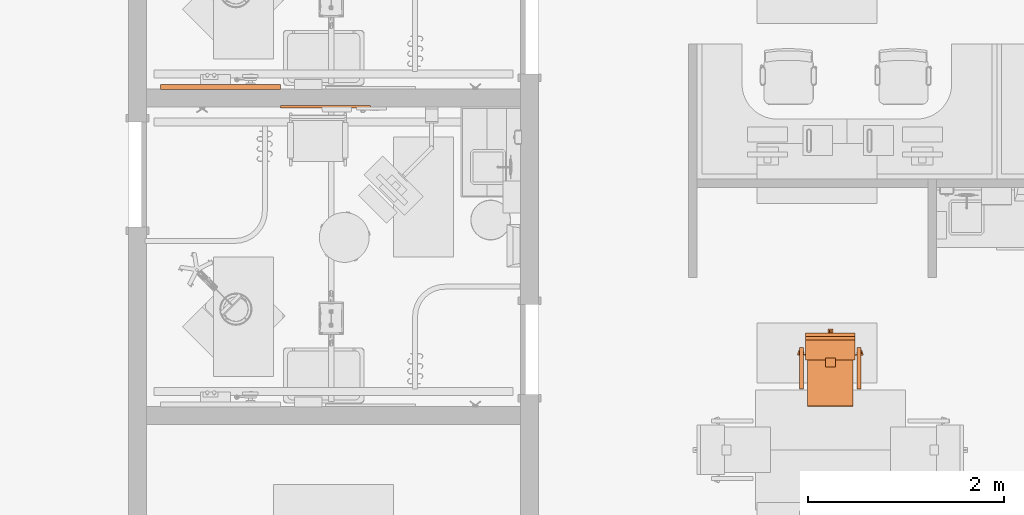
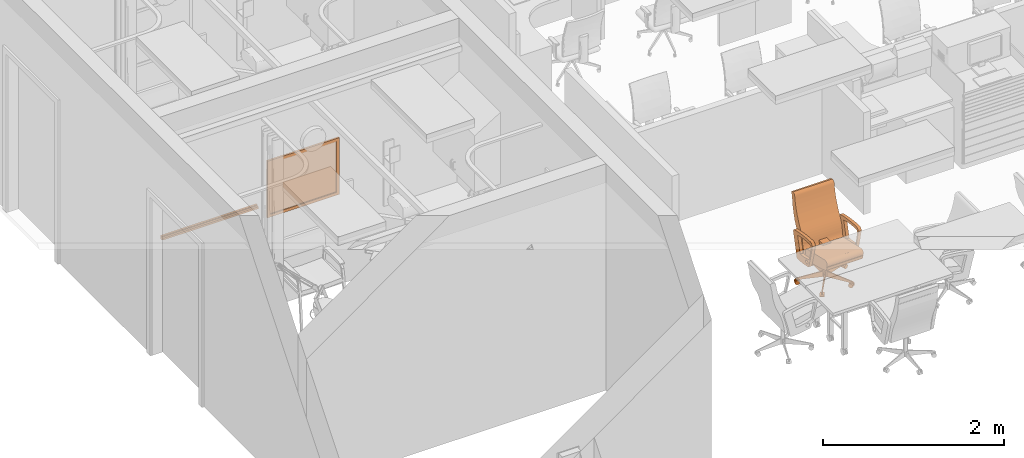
# One storey, part 51 of 142: 3 proxies.
"""IFC2X3 building model written with IfcOpenShell, lengths in feet."""

import ifcopenshell
import ifcopenshell.guid

model = None  # the IFC model being written
_history = None  # IfcOwnerHistory: only IFC2X3 demands one
_inside = {}  # id of a spatial element -> (the spatial element, [elements in it])
_under = {}  # id of a project, library or spatial element -> (it, [spatial elements below it])
_declared = {}  # id of a project -> (the project, [libraries it declares])
_typed = {}  # id of a type object -> (the type object, [elements of that type])
_made_of = {}  # id of a material, layer set ... -> (it, [elements and type objects made of it])


def new_model(schema):
    """Start an empty IFC model of exactly this schema.

    Asked for "IFC4X3", IfcOpenShell would pick the latest addendum, in which some entities
    have other attributes; the version numbers below select the first issue.
    IFC2X3 requires an IfcOwnerHistory on every rooted entity: one is made here for all.
    """
    global model, _history
    if schema == "IFC4X3":
        model = ifcopenshell.file(schema_version=(4, 3, 0, 0))
    else:
        model = ifcopenshell.file(schema=schema)
    _inside.clear()
    _under.clear()
    _declared.clear()
    _typed.clear()
    _made_of.clear()
    _history = None
    if model.schema == "IFC2X3":
        org = make("IfcOrganization", Name="unknown")
        user = make(
            "IfcPersonAndOrganization",
            ThePerson=make("IfcPerson", FamilyName="unknown"),
            TheOrganization=org,
        )
        app = make(
            "IfcApplication",
            ApplicationDeveloper=org,
            Version="unknown",
            ApplicationFullName="unknown",
            ApplicationIdentifier="unknown",
        )
        _history = make(
            "IfcOwnerHistory",
            OwningUser=user,
            OwningApplication=app,
            ChangeAction="ADDED",
            CreationDate=0,
        )
    return model


def make(cls, **values):
    """One entity of the class cls with the attributes given. An attribute that is None is left unset."""
    return model.create_entity(
        cls, **{name: value for name, value in values.items() if value is not None}
    )


def entity(cls, *values):
    """Any entity or typed value of the class cls, its attributes in the order of the schema. None: left unset."""
    e = model.create_entity(cls)
    for i, value in enumerate(values):
        if value is not None:
            e[i] = value
    return e


def rooted(cls, **values):
    """An entity with a GlobalId (a new one), such as an element, a storey or a relation."""
    return make(cls, GlobalId=ifcopenshell.guid.new(), OwnerHistory=_history, **values)


def si_unit(unit_type, name, prefix=None):
    """IfcSIUnit, for example si_unit("LENGTHUNIT", "METRE", prefix="MILLI")."""
    return make("IfcSIUnit", UnitType=unit_type, Prefix=prefix, Name=name)


def converted_unit(unit_type, name, factor, base, dimensions=None, offset=None):
    """IfcConversionBasedUnit, such as the inch: factor (a typed value) times the base unit."""
    return make(
        "IfcConversionBasedUnit"
        if offset is None
        else "IfcConversionBasedUnitWithOffset",
        ConversionOffset=offset,
        Dimensions=None
        if dimensions is None
        else entity("IfcDimensionalExponents", *dimensions),
        UnitType=unit_type,
        Name=name,
        ConversionFactor=make(
            "IfcMeasureWithUnit", ValueComponent=factor, UnitComponent=base
        ),
    )


def derived_unit(unit_type, elements):
    """IfcDerivedUnit: a product of units, each with its exponent."""
    return make(
        "IfcDerivedUnit",
        Elements=[
            make("IfcDerivedUnitElement", Unit=unit, Exponent=power)
            for unit, power in elements
        ],
        UnitType=unit_type,
    )


def assignment(units):
    """IfcUnitAssignment: the units of a project."""
    return None if units is None else make("IfcUnitAssignment", Units=units)


def point(xyz):
    """IfcCartesianPoint."""
    return None if xyz is None else make("IfcCartesianPoint", Coordinates=xyz)


def direction(xyz):
    """IfcDirection."""
    return None if xyz is None else make("IfcDirection", DirectionRatios=xyz)


def frame(location, z_axis=None, x_axis=None):
    """IfcAxis2Placement3D, a coordinate frame: its origin and axes. An axis left out is left unset."""
    return make(
        "IfcAxis2Placement3D",
        Location=point(location),
        Axis=direction(z_axis),
        RefDirection=direction(x_axis),
    )


def frame_2d(location, x_axis=None):
    """IfcAxis2Placement2D, a coordinate frame in the plane: its origin and x axis."""
    return make(
        "IfcAxis2Placement2D", Location=point(location), RefDirection=direction(x_axis)
    )


def origin():
    """The frame at (0, 0, 0) with its axes left unset."""
    return frame((0.0, 0.0, 0.0))


def origin_2d_with_axis():
    """The frame at (0, 0) in the plane with the x axis (1, 0) written out."""
    return frame_2d((0.0, 0.0), x_axis=(1.0, 0.0))


def place(relative_to, where):
    """IfcLocalPlacement: puts the frame where relative to a parent placement (None: the world)."""
    return make(
        "IfcLocalPlacement", PlacementRelTo=relative_to, RelativePlacement=where
    )


def context(
    kind, dimensions, precision=None, world=None, true_north=None, identifier=None
):
    """IfcGeometricRepresentationContext, for example the 3D "Model" context."""
    return make(
        "IfcGeometricRepresentationContext",
        ContextIdentifier=identifier,
        ContextType=kind,
        CoordinateSpaceDimension=dimensions,
        Precision=precision,
        WorldCoordinateSystem=world,
        TrueNorth=true_north,
    )


def subcontext(parent, identifier, kind, view, scale=None):
    """IfcGeometricRepresentationSubContext, for example "Body" below "Model"."""
    return make(
        "IfcGeometricRepresentationSubContext",
        ContextIdentifier=identifier,
        ContextType=kind,
        ParentContext=parent,
        TargetScale=scale,
        TargetView=view,
    )


def project(units=None, contexts=None):
    """IfcProject with its units and contexts."""
    return rooted(
        "IfcProject",
        Name="project",
        RepresentationContexts=contexts,
        UnitsInContext=assignment(units),
    )


def spatial(cls, under=None, at=None, **own):
    """A site, building, storey or space (cls), placed at a placement, below another one or the project."""
    s = rooted(cls, ObjectPlacement=at, **own)
    if under is not None:
        _under.setdefault(under.id(), (under, []))[1].append(s)
    return s


def polyline(points):
    """IfcPolyline through the points."""
    return make("IfcPolyline", Points=[point(p) for p in points])


def circle_curve(where, radius):
    """IfcCircle in the frame where."""
    return make("IfcCircle", Position=where, Radius=radius)


def parameter(value):
    """IfcParameterValue: where a trimmed curve begins or ends, as a parameter of its basis curve."""
    return model.create_entity("IfcParameterValue", value)


def trimmed(basis, trim1, trim2, sense, master):
    """IfcTrimmedCurve: the piece of a basis curve between two trims."""
    return make(
        "IfcTrimmedCurve",
        BasisCurve=basis,
        Trim1=trim1,
        Trim2=trim2,
        SenseAgreement=sense,
        MasterRepresentation=master,
    )


def segment(curve, same_sense, transition):
    """IfcCompositeCurveSegment."""
    return make(
        "IfcCompositeCurveSegment",
        Transition=transition,
        SameSense=same_sense,
        ParentCurve=curve,
    )


def composite_curve(segments, self_intersect=None):
    """IfcCompositeCurve: segments joined end to end."""
    return make("IfcCompositeCurve", Segments=segments, SelfIntersect=self_intersect)


def profile(cls, at=None, kind="AREA", **sizes):
    """A parametric profile (cls). Its sizes go by their IFC names, for example OverallWidth=200.0."""
    return make(cls, ProfileType=kind, Position=at, **sizes)


def rectangle(**sizes):
    """IfcRectangleProfileDef."""
    return profile("IfcRectangleProfileDef", **sizes)


def circle(**sizes):
    """IfcCircleProfileDef."""
    return profile("IfcCircleProfileDef", **sizes)


def outline(outer, holes=None, kind="AREA"):
    """IfcArbitraryClosedProfileDef: a profile drawn as a closed curve; with holes, ...WithVoids."""
    if holes is None:
        return make("IfcArbitraryClosedProfileDef", ProfileType=kind, OuterCurve=outer)
    return make(
        "IfcArbitraryProfileDefWithVoids",
        ProfileType=kind,
        OuterCurve=outer,
        InnerCurves=holes,
    )


def extrude(swept, where, along, depth):
    """IfcExtrudedAreaSolid: the profile swept, set in the frame where, extruded along a direction by depth."""
    return make(
        "IfcExtrudedAreaSolid",
        SweptArea=swept,
        Position=where,
        ExtrudedDirection=direction(along),
        Depth=depth,
    )


def shape(context_of_items, identifier, shape_type, items):
    """IfcShapeRepresentation: the items that make up one representation, for example the "Body"."""
    return make(
        "IfcShapeRepresentation",
        ContextOfItems=context_of_items,
        RepresentationIdentifier=identifier,
        RepresentationType=shape_type,
        Items=items,
    )


def source(mapping_origin, context_of_items, identifier, shape_type, items):
    """IfcRepresentationMap: a shape defined once, which mapped items show again and again."""
    return make(
        "IfcRepresentationMap",
        MappingOrigin=mapping_origin,
        MappedRepresentation=shape(context_of_items, identifier, shape_type, items),
    )


def transform(
    local_origin,
    x_axis=None,
    y_axis=None,
    z_axis=None,
    scale=None,
    scale2=None,
    scale3=None,
    uniform=True,
):
    """IfcCartesianTransformationOperator3D, or its non-uniform kind. x_axis, y_axis, z_axis: its Axis1, 2, 3."""
    if uniform:
        return make(
            "IfcCartesianTransformationOperator3D",
            Axis1=direction(x_axis),
            Axis2=direction(y_axis),
            LocalOrigin=point(local_origin),
            Scale=scale,
            Axis3=direction(z_axis),
        )
    return make(
        "IfcCartesianTransformationOperator3DnonUniform",
        Axis1=direction(x_axis),
        Axis2=direction(y_axis),
        LocalOrigin=point(local_origin),
        Scale=scale,
        Axis3=direction(z_axis),
        Scale2=scale2,
        Scale3=scale3,
    )


def mapped(mapping_source, mapping_target):
    """IfcMappedItem: shows the shape of a source again, moved by a transform."""
    return make(
        "IfcMappedItem", MappingSource=mapping_source, MappingTarget=mapping_target
    )


def made_of(thing, what):
    """Note that an element or type object is made of a material, layer set ...; save() writes the relation."""
    if what is not None:
        _made_of.setdefault(what.id(), (what, []))[1].append(thing)
    return thing


def type_object(cls, material=None, **own):
    """A type object (cls), such as IfcWallType, which elements share."""
    return made_of(rooted(cls, **own), material)


def type_shapes(of_type, sources):
    """Give a type object the sources (RepresentationMaps) that its elements show as mapped items."""
    of_type.RepresentationMaps = sources


def element(
    cls,
    number,
    at=None,
    inside=None,
    cuts=None,
    type_object=None,
    material=None,
    context=None,
    identifier="Body",
    shape_type=None,
    held_by="IfcProductDefinitionShape",
    body=None,
    shapes=None,
    **own,
):
    """One element of the class cls, such as IfcWall. Its Tag is "e" and its number.

    at: its placement. inside: the storey or other place that contains it. cuts: it is an
    opening in that element (IfcRelVoidsElement). A single representation is given by context,
    identifier, shape_type and body (its items); several are given by shapes. held_by: the class
    of the entity that holds the representations. save() writes the other relations.
    """
    e = rooted(cls, Tag="e%d" % number, ObjectPlacement=at, **own)
    if body is not None:
        shapes = [shape(context, identifier, shape_type, body)]
    if shapes is not None:
        e.Representation = make(held_by, Representations=shapes)
    if inside is not None:
        _inside.setdefault(inside.id(), (inside, []))[1].append(e)
    if cuts is not None:
        rooted(
            "IfcRelVoidsElement", RelatingBuildingElement=cuts, RelatedOpeningElement=e
        )
    if type_object is not None:
        _typed.setdefault(type_object.id(), (type_object, []))[1].append(e)
    return made_of(e, material)


def aggregate(whole, parts):
    """IfcRelAggregates: a whole, such as a stair, and the parts it consists of."""
    return rooted("IfcRelAggregates", RelatingObject=whole, RelatedObjects=parts)


def save(model, path):
    """Write the relations noted so far, then the file.

    IfcRelAggregates (storeys below a building ...), IfcRelContainedInSpatialStructure (elements
    in a storey), IfcRelDefinesByType, IfcRelAssociatesMaterial and IfcRelDeclares: one each for
    every whole, place, type object, material and project.
    """
    for whole, parts in _under.values():
        aggregate(whole, parts)
    for where, things in _inside.values():
        rooted(
            "IfcRelContainedInSpatialStructure",
            RelatedElements=things,
            RelatingStructure=where,
        )
    for kind, things in _typed.values():
        rooted("IfcRelDefinesByType", RelatedObjects=things, RelatingType=kind)
    for what, things in _made_of.values():
        rooted("IfcRelAssociatesMaterial", RelatedObjects=things, RelatingMaterial=what)
    for by, libraries in _declared.values():
        rooted("IfcRelDeclares", RelatingContext=by, RelatedDefinitions=libraries)
    model.write(path)


model = new_model("IFC2X3")

# Units and contexts
model_context = context("Model", 3, precision=0.0001, world=origin(), true_north=direction((6.12303176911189e-17, 1.0)))
body_context = subcontext(model_context, "Body", "Model", "MODEL_VIEW")
ifc_project = project(units=[converted_unit("LENGTHUNIT", "FOOT", entity("IfcRatioMeasure", 0.3048), si_unit("LENGTHUNIT", "METRE"), dimensions=[1, 0, 0, 0, 0, 0, 0]), converted_unit("AREAUNIT", "SQUARE FOOT", entity("IfcRatioMeasure", 0.09290304), si_unit("AREAUNIT", "SQUARE_METRE"), dimensions=[2, 0, 0, 0, 0, 0, 0]), converted_unit("VOLUMEUNIT", "CUBIC FOOT", entity("IfcRatioMeasure", 0.028316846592), si_unit("VOLUMEUNIT", "CUBIC_METRE"), dimensions=[3, 0, 0, 0, 0, 0, 0]), converted_unit("PLANEANGLEUNIT", "DEGREE", entity("IfcRatioMeasure", 0.0174532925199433), si_unit("PLANEANGLEUNIT", "RADIAN"), dimensions=[0, 0, 0, 0, 0, 0, 0]), si_unit("MASSUNIT", "GRAM", prefix="KILO"), derived_unit("MASSDENSITYUNIT", [(si_unit("MASSUNIT", "GRAM", prefix="KILO"), 1), (si_unit("LENGTHUNIT", "METRE"), -3)]), si_unit("TIMEUNIT", "SECOND"), si_unit("FREQUENCYUNIT", "HERTZ"), si_unit("THERMODYNAMICTEMPERATUREUNIT", "DEGREE_CELSIUS"), derived_unit("THERMALTRANSMITTANCEUNIT", [(si_unit("MASSUNIT", "GRAM", prefix="KILO"), 1), (si_unit("THERMODYNAMICTEMPERATUREUNIT", "KELVIN"), -1), (si_unit("TIMEUNIT", "SECOND"), -3)]), derived_unit("VOLUMETRICFLOWRATEUNIT", [(si_unit("LENGTHUNIT", "METRE"), 3), (si_unit("TIMEUNIT", "SECOND"), -1)]), si_unit("ELECTRICCURRENTUNIT", "AMPERE"), si_unit("ELECTRICVOLTAGEUNIT", "VOLT"), si_unit("POWERUNIT", "WATT"), si_unit("FORCEUNIT", "NEWTON"), si_unit("ILLUMINANCEUNIT", "LUX"), si_unit("LUMINOUSFLUXUNIT", "LUMEN"), si_unit("LUMINOUSINTENSITYUNIT", "CANDELA"), derived_unit("USERDEFINED", [(si_unit("MASSUNIT", "GRAM", prefix="KILO"), -1), (si_unit("LENGTHUNIT", "METRE"), -2), (si_unit("TIMEUNIT", "SECOND"), 3), (si_unit("LUMINOUSFLUXUNIT", "LUMEN"), 1)]), derived_unit("LINEARVELOCITYUNIT", [(si_unit("LENGTHUNIT", "METRE"), 1), (si_unit("TIMEUNIT", "SECOND"), -1)]), si_unit("PRESSUREUNIT", "PASCAL"), derived_unit("USERDEFINED", [(si_unit("LENGTHUNIT", "METRE"), -2), (si_unit("MASSUNIT", "GRAM", prefix="KILO"), 1), (si_unit("TIMEUNIT", "SECOND"), -2)])], contexts=[model_context])

# Site, building, storey
site_placement = place(None, origin())
site = spatial("IfcSite", under=ifc_project, at=site_placement, Name="Default", CompositionType="ELEMENT")
building_placement = place(site_placement, origin())
building = spatial("IfcBuilding", under=site, at=building_placement, Name="OUTPATIENT / PACT CLINIC (Ch. 265)", CompositionType="ELEMENT")
storey_placement = place(building_placement, origin())
storey = spatial("IfcBuildingStorey", under=building, at=storey_placement, Name="LEVEL 1", CompositionType="ELEMENT", Elevation=0.0)

# Proxy
building_element_proxy_type_1 = type_object("IfcBuildingElementProxyType", Name="F3025 - Board, Bulletin, Wood Framed", PredefinedType="NOTDEFINED")
shared_shape_1 = source(origin(), body_context, "Body", "SweptSolid", [
    extrude(rectangle(XDim=0.0416666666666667, YDim=2.74999999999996, at=origin_2d_with_axis()), frame((0.0, -0.020833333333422, 0.124999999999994), z_axis=(0.0, 0.0, 1.0), x_axis=(0.0, 1.0, 0.0)), (0.0, 0.0, 1.0), 2.25000000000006),
    extrude(outline(polyline([(-1.49999999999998, -1.25), (1.49999999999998, -1.25), (1.49999999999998, 1.25), (-1.49999999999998, 1.25), (-1.49999999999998, -1.25)]), holes=[polyline([(-1.37499999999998, -1.125), (-1.37499999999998, 1.12500000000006), (1.37499999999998, 1.12500000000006), (1.37499999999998, -1.125), (-1.37499999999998, -1.125)])]), frame((0.0, -0.0833333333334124, 1.25), z_axis=(0.0, 1.0, 0.0), x_axis=(-1.0, 0.0, 0.0)), (0.0, 0.0, 1.0), 0.0833333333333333),
])
type_shapes(building_element_proxy_type_1, [shared_shape_1])
proxy_1_placement = place(storey_placement, frame((396.945201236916, -886.972602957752, 4.0)))
element("IfcBuildingElementProxy", 1, at=proxy_1_placement, inside=storey, type_object=building_element_proxy_type_1, Name="F3025 - Board, Bulletin, Wood Framed:F3025 - Board, Bulletin, Wood Framed", ObjectType="F3025 - Board, Bulletin, Wood Framed", context=body_context, shape_type="MappedRepresentation", body=[
    mapped(shared_shape_1, transform((0.0, 0.0, 0.0), scale=1.0)),
])

# Space
space_1_placement = place(storey_placement, origin())
space_1 = spatial("IfcSpace", under=storey, at=space_1_placement, Name="WRTM1", CompositionType="ELEMENT", InteriorOrExteriorSpace="INTERNAL")

# Proxy
building_element_proxy_type_2 = type_object("IfcBuildingElementProxyType", Name="F0220 - Chair, Conference", PredefinedType="NOTDEFINED")
shared_shape_2 = source(origin(), body_context, "Body", "SweptSolid", [
    extrude(outline(composite_curve([segment(trimmed(circle_curve(frame_2d((9.14984606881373, 2.49371945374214), x_axis=(1.0, 0.0)), 10.0417603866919), [parameter(191.105394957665)], [parameter(197.183115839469)], True, "PARAMETER"), True, "CONTINUOUS"), segment(trimmed(circle_curve(frame_2d((-0.383994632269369, -0.454418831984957), x_axis=(1.0, 0.0)), 0.0625), [parameter(197.183115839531)], [parameter(255.942255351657)], True, "PARAMETER"), True, "CONTINUOUS"), segment(trimmed(circle_curve(frame_2d((0.478250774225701, 2.98907031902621), x_axis=(1.0, 0.0)), 3.61230065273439), [parameter(255.942255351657)], [parameter(268.328818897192)], True, "PARAMETER"), True, "CONTINUOUS"), segment(trimmed(circle_curve(frame_2d((0.374732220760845, -0.55901559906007), x_axis=(1.0, 0.0)), 0.0627049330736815), [parameter(268.328818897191)], [parameter(347.551961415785)], True, "PARAMETER"), True, "CONTINUOUS"), segment(trimmed(circle_curve(frame_2d((12.2871693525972, -3.01281927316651), x_axis=(1.0, 0.0)), 12.0998385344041), [parameter(163.635179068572)], [parameter(168.364820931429)], True, "PARAMETER"), False, "CONTINUOUS"), segment(trimmed(circle_curve(frame_2d((0.575436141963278, 0.426318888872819), x_axis=(1.0, 0.0)), 0.106404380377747), [parameter(343.635179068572)], [parameter(76.3648209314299)], True, "PARAMETER"), True, "CONTINUOUS"), segment(trimmed(circle_curve(frame_2d((-0.866637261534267, -5.51852508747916), x_axis=(1.0, 0.0)), 6.22365422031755), [parameter(76.36482093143)], [parameter(86.9930058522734)], True, "PARAMETER"), True, "CONTINUOUS"), segment(trimmed(circle_curve(frame_2d((-0.54837852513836, 0.540062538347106), x_axis=(1.0, 0.0)), 0.156713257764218), [parameter(86.9930058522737)], [parameter(172.863289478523)], True, "PARAMETER"), True, "CONTINUOUS")], self_intersect=False), holes=[composite_curve([segment(trimmed(circle_curve(frame_2d((0.165389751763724, -0.270570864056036), x_axis=(1.0, 0.0)), 0.0208333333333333), [parameter(266.624086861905)], [parameter(347.258129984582)], True, "PARAMETER"), False, "CONTINUOUS"), segment(trimmed(circle_curve(frame_2d((0.277251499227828, 1.62574197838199), x_axis=(1.0, 0.0)), 1.92044262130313), [parameter(246.929733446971)], [parameter(266.62408686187)], True, "PARAMETER"), False, "CONTINUOUS"), segment(trimmed(circle_curve(frame_2d((-0.46977528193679, -0.128159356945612), x_axis=(1.0, 0.0)), 0.0140798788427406), [parameter(191.196690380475)], [parameter(246.929733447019)], True, "PARAMETER"), False, "CONTINUOUS"), segment(trimmed(circle_curve(frame_2d((2.43855792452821, 0.768421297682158), x_axis=(1.0, 0.0)), 3.05740066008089), [parameter(184.763265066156)], [parameter(197.106187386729)], True, "PARAMETER"), False, "CONTINUOUS"), segment(trimmed(circle_curve(frame_2d((-0.574176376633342, 0.525693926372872), x_axis=(1.0, 0.0)), 0.0358851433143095), [parameter(90.6302244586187)], [parameter(198.112157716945)], True, "PARAMETER"), False, "CONTINUOUS"), segment(trimmed(circle_curve(frame_2d((-0.540439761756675, -2.54128905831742), x_axis=(1.0, 0.0)), 3.1030536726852), [parameter(73.3959262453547)], [parameter(90.6302244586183)], True, "PARAMETER"), False, "CONTINUOUS"), segment(trimmed(circle_curve(frame_2d((0.340324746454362, 0.412409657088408), x_axis=(1.0, 0.0)), 0.0208333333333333), [parameter(344.008713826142)], [parameter(73.3959262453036)], True, "PARAMETER"), False, "CONTINUOUS"), segment(trimmed(circle_curve(frame_2d((12.2923776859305, -3.0128192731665), x_axis=(1.0, 0.0)), 12.4123385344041), [parameter(164.008713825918)], [parameter(167.258129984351)], True, "PARAMETER"), True, "CONTINUOUS")], self_intersect=False), composite_curve([segment(trimmed(circle_curve(frame_2d((-0.300575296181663, -0.351220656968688), x_axis=(1.0, 0.0)), 0.0833333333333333), [parameter(180.0)], [parameter(360.0)], True, "PARAMETER"), False, "CONTINUOUS"), segment(trimmed(circle_curve(frame_2d((-0.300575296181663, -0.351220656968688), x_axis=(1.0, 0.0)), 0.0833333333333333), [parameter(0.0)], [parameter(180.0)], True, "PARAMETER"), False, "CONTINUOUS")], self_intersect=False)]), frame((-1.03331274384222, 0.0541567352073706, 1.78474215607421), z_axis=(1.0, 0.0, 0.0), x_axis=(0.0, 1.0, 0.0)), (0.0, 0.0, 1.0), 0.128812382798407),
    extrude(outline(composite_curve([segment(trimmed(circle_curve(frame_2d((9.14984606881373, 2.49371945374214), x_axis=(1.0, 0.0)), 10.0417603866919), [parameter(191.105394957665)], [parameter(197.183115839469)], True, "PARAMETER"), True, "CONTINUOUS"), segment(trimmed(circle_curve(frame_2d((-0.383994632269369, -0.454418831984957), x_axis=(1.0, 0.0)), 0.0625), [parameter(197.183115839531)], [parameter(255.942255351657)], True, "PARAMETER"), True, "CONTINUOUS"), segment(trimmed(circle_curve(frame_2d((0.478250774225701, 2.98907031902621), x_axis=(1.0, 0.0)), 3.61230065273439), [parameter(255.942255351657)], [parameter(268.328818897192)], True, "PARAMETER"), True, "CONTINUOUS"), segment(trimmed(circle_curve(frame_2d((0.374732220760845, -0.55901559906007), x_axis=(1.0, 0.0)), 0.0627049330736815), [parameter(268.328818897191)], [parameter(347.551961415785)], True, "PARAMETER"), True, "CONTINUOUS"), segment(trimmed(circle_curve(frame_2d((12.2871693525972, -3.01281927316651), x_axis=(1.0, 0.0)), 12.0998385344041), [parameter(163.635179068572)], [parameter(168.364820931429)], True, "PARAMETER"), False, "CONTINUOUS"), segment(trimmed(circle_curve(frame_2d((0.575436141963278, 0.426318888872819), x_axis=(1.0, 0.0)), 0.106404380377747), [parameter(343.635179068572)], [parameter(76.3648209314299)], True, "PARAMETER"), True, "CONTINUOUS"), segment(trimmed(circle_curve(frame_2d((-0.866637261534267, -5.51852508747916), x_axis=(1.0, 0.0)), 6.22365422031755), [parameter(76.36482093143)], [parameter(86.9930058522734)], True, "PARAMETER"), True, "CONTINUOUS"), segment(trimmed(circle_curve(frame_2d((-0.54837852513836, 0.540062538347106), x_axis=(1.0, 0.0)), 0.156713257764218), [parameter(86.9930058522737)], [parameter(172.863289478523)], True, "PARAMETER"), True, "CONTINUOUS")], self_intersect=False), holes=[composite_curve([segment(trimmed(circle_curve(frame_2d((0.165389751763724, -0.270570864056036), x_axis=(1.0, 0.0)), 0.0208333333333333), [parameter(266.624086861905)], [parameter(347.258129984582)], True, "PARAMETER"), False, "CONTINUOUS"), segment(trimmed(circle_curve(frame_2d((0.277251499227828, 1.62574197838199), x_axis=(1.0, 0.0)), 1.92044262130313), [parameter(246.929733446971)], [parameter(266.62408686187)], True, "PARAMETER"), False, "CONTINUOUS"), segment(trimmed(circle_curve(frame_2d((-0.46977528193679, -0.128159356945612), x_axis=(1.0, 0.0)), 0.0140798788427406), [parameter(191.196690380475)], [parameter(246.929733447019)], True, "PARAMETER"), False, "CONTINUOUS"), segment(trimmed(circle_curve(frame_2d((2.43855792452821, 0.768421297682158), x_axis=(1.0, 0.0)), 3.05740066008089), [parameter(184.763265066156)], [parameter(197.106187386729)], True, "PARAMETER"), False, "CONTINUOUS"), segment(trimmed(circle_curve(frame_2d((-0.574176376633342, 0.525693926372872), x_axis=(1.0, 0.0)), 0.0358851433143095), [parameter(90.6302244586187)], [parameter(198.112157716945)], True, "PARAMETER"), False, "CONTINUOUS"), segment(trimmed(circle_curve(frame_2d((-0.540439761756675, -2.54128905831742), x_axis=(1.0, 0.0)), 3.1030536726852), [parameter(73.3959262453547)], [parameter(90.6302244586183)], True, "PARAMETER"), False, "CONTINUOUS"), segment(trimmed(circle_curve(frame_2d((0.340324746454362, 0.412409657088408), x_axis=(1.0, 0.0)), 0.0208333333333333), [parameter(344.008713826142)], [parameter(73.3959262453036)], True, "PARAMETER"), False, "CONTINUOUS"), segment(trimmed(circle_curve(frame_2d((12.2923776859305, -3.0128192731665), x_axis=(1.0, 0.0)), 12.4123385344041), [parameter(164.008713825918)], [parameter(167.258129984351)], True, "PARAMETER"), True, "CONTINUOUS")], self_intersect=False), composite_curve([segment(trimmed(circle_curve(frame_2d((-0.300575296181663, -0.351220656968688), x_axis=(1.0, 0.0)), 0.0833333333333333), [parameter(180.0)], [parameter(360.0)], True, "PARAMETER"), False, "CONTINUOUS"), segment(trimmed(circle_curve(frame_2d((-0.300575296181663, -0.351220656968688), x_axis=(1.0, 0.0)), 0.0833333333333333), [parameter(0.0)], [parameter(180.0)], True, "PARAMETER"), False, "CONTINUOUS")], self_intersect=False)]), frame((0.889516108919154, 0.0541567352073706, 1.78474215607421), z_axis=(1.0, 0.0, 0.0), x_axis=(0.0, 1.0, 0.0)), (0.0, 0.0, 1.0), 0.128812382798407),
    extrude(outline(composite_curve([segment(trimmed(circle_curve(frame_2d((0.770862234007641, -1.97589519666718), x_axis=(1.0, 0.0)), 2.24250574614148), [parameter(83.7744840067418)], [parameter(104.587152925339)], True, "PARAMETER"), True, "CONTINUOUS"), segment(trimmed(circle_curve(frame_2d((2.30952075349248, -7.88833070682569), x_axis=(1.0, 0.0)), 8.35187262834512), [parameter(104.587152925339)], [parameter(109.615059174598)], True, "PARAMETER"), True, "CONTINUOUS"), segment(trimmed(circle_curve(frame_2d((-0.466775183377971, -0.0980657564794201), x_axis=(1.0, 0.0)), 0.0816823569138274), [parameter(109.6150591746)], [parameter(157.671413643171)], True, "PARAMETER"), True, "CONTINUOUS"), segment(trimmed(circle_curve(frame_2d((0.971574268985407, -0.592538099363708), x_axis=(1.0, 0.0)), 1.60252010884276), [parameter(160.857176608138)], [parameter(166.076927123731)], True, "PARAMETER"), True, "CONTINUOUS"), segment(trimmed(circle_curve(frame_2d((-0.579633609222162, -0.207989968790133), x_axis=(1.0, 0.0)), 0.00435768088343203), [parameter(166.076927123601)], [parameter(280.378705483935)], True, "PARAMETER"), True, "CONTINUOUS"), segment(trimmed(circle_curve(frame_2d((16.512596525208, -93.5315619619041), x_axis=(1.0, 0.0)), 94.871526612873), [parameter(99.4235676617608)], [parameter(100.378705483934)], True, "PARAMETER"), False, "CONTINUOUS"), segment(trimmed(circle_curve(frame_2d((1.8700360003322, -0.000965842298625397), x_axis=(1.0, 0.0)), 0.89298195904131), [parameter(163.451060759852)], [parameter(176.106880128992)], True, "PARAMETER"), False, "CONTINUOUS")], self_intersect=False)), frame((-0.758282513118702, -0.647436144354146, 1.48104866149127), z_axis=(-1.0, 0.0, 0.0), x_axis=(0.0, 1.0, 0.0)), (0.0, 0.0, -1.0), 1.51656502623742),
    extrude(outline(composite_curve([segment(trimmed(circle_curve(frame_2d((0.748071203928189, -0.232027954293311), x_axis=(1.0, 0.0)), 0.184186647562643), [parameter(350.278861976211)], [parameter(77.0065708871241)], True, "PARAMETER"), True, "CONTINUOUS"), segment(polyline([(0.789483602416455, -0.0525572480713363), (-0.479286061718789, 0.240208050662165)]), True, "CONTINUOUS"), segment(trimmed(circle_curve(frame_2d((-0.507608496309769, 0.112724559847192), x_axis=(1.0, 0.0)), 0.130591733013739), [parameter(77.474288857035)], [parameter(198.999999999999)], True, "PARAMETER"), True, "CONTINUOUS"), segment(polyline([(-0.631085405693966, 0.0702080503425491), (-0.608725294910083, 0.00526957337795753)]), True, "CONTINUOUS"), segment(trimmed(circle_curve(frame_2d((16.4660541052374, 93.3276059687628), x_axis=(1.0, 0.0)), 94.871526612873), [parameter(259.631526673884)], [parameter(260.574620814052)], True, "PARAMETER"), True, "CONTINUOUS")], self_intersect=False)), frame((-0.758282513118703, -0.600893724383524, 1.68500465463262), z_axis=(1.0, 0.0, 0.0), x_axis=(0.0, 1.0, 0.0)), (0.0, 0.0, 1.0), 1.51656502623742),
    extrude(outline(composite_curve([segment(trimmed(circle_curve(frame_2d((-5.48433918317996, 1.67691427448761), x_axis=(1.0, 0.0)), 5.89579235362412), [parameter(342.407441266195)], [parameter(347.674731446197)], True, "PARAMETER"), True, "CONTINUOUS"), segment(polyline([(0.275564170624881, 0.418391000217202), (0.291615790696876, 0.683111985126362)]), True, "CONTINUOUS"), segment(trimmed(circle_curve(frame_2d((0.343994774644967, 0.679935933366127), x_axis=(1.0, 0.0)), 0.0524751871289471), [parameter(121.399025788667)], [parameter(176.530061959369)], True, "PARAMETER"), False, "CONTINUOUS"), segment(trimmed(circle_curve(frame_2d((0.186262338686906, 0.76504705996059), x_axis=(1.0, 0.0)), 0.136484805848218), [parameter(342.817239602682)], [parameter(358.256726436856)], True, "PARAMETER"), True, "CONTINUOUS"), segment(polyline([(0.322683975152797, 0.760895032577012), (0.342033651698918, 0.876984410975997)]), True, "CONTINUOUS"), segment(trimmed(circle_curve(frame_2d((1.20150958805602, 0.733727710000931), x_axis=(1.0, 0.0)), 0.871333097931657), [parameter(161.216169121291)], [parameter(170.536983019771)], True, "PARAMETER"), False, "CONTINUOUS"), segment(trimmed(circle_curve(frame_2d((0.559823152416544, 1.74436883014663), x_axis=(1.0, 0.0)), 0.752717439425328), [parameter(246.521848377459)], [parameter(255.910489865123)], True, "PARAMETER"), False, "CONTINUOUS"), segment(trimmed(circle_curve(frame_2d((0.257390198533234, 0.926976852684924), x_axis=(1.0, 0.0)), 0.127016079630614), [parameter(88.8492703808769)], [parameter(173.15072961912)], True, "PARAMETER"), True, "CONTINUOUS"), segment(trimmed(circle_curve(frame_2d((-2.87663606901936, 1.30342050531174), x_axis=(1.0, 0.0)), 3.02953749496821), [parameter(328.849270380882)], [parameter(353.150729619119)], True, "PARAMETER"), False, "CONTINUOUS"), segment(trimmed(circle_curve(frame_2d((0.690213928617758, -0.852550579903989), x_axis=(1.0, 0.0)), 1.13827130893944), [parameter(148.849270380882)], [parameter(180.0)], True, "PARAMETER"), True, "CONTINUOUS"), segment(trimmed(circle_curve(frame_2d((-0.752422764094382, -0.836472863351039), x_axis=(1.0, 0.0)), 0.304789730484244), [parameter(317.298982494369)], [parameter(356.976233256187)], True, "PARAMETER"), False, "CONTINUOUS"), segment(trimmed(circle_curve(frame_2d((-0.687987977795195, -1.1351871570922), x_axis=(1.0, 0.0)), 0.184186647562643), [parameter(355.215711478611)], [parameter(29.9715875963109)], True, "PARAMETER"), False, "CONTINUOUS"), segment(trimmed(circle_curve(frame_2d((0.387434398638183, -1.10614935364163), x_axis=(1.0, 0.0)), 0.89298195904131), [parameter(182.849969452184)], [parameter(196.548939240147)], True, "PARAMETER"), True, "CONTINUOUS"), segment(trimmed(circle_curve(frame_2d((-0.711739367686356, 0.868780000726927), x_axis=(1.0, 0.0)), 2.24250574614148), [parameter(276.225515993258)], [parameter(282.457471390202)], True, "PARAMETER"), True, "CONTINUOUS"), segment(trimmed(circle_curve(frame_2d((2.38262323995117, -1.47671904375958), x_axis=(1.0, 0.0)), 2.61526502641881), [parameter(155.15786130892)], [parameter(176.584898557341)], True, "PARAMETER"), False, "CONTINUOUS"), segment(polyline([(0.00935197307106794, -0.377994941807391), (0.135706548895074, -0.105065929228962)]), True, "CONTINUOUS")], self_intersect=False)), frame((-0.836149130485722, 0.835165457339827, 2.58816385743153), z_axis=(1.0, 0.0, 0.0), x_axis=(0.0, 1.0, 0.0)), (0.0, 0.0, 1.0), 1.65266976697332),
    extrude(circle(Radius=0.0833333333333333, at=frame_2d((0.0, -1.11022302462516e-16), x_axis=(1.0, 0.0))), frame((-0.00206593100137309, 0.212136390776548, 0.173534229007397)), (0.0, 0.0, 1.0), 1.0846174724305),
    extrude(circle(Radius=0.0925205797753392, at=frame_2d((0.0, -1.52655665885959e-16), x_axis=(1.0, 0.0))), frame((0.962866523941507, 0.613283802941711, 0.0902008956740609), z_axis=(0.309016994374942, -0.951056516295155, 0.0), x_axis=(0.951056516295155, 0.309016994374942, 0.0)), (0.0, 0.0, 1.0), 0.166666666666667),
    extrude(outline(composite_curve([segment(polyline([(-0.29506616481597, -0.0510253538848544), (0.663267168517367, -0.0510253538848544)]), True, "CONTINUOUS"), segment(polyline([(0.663267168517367, -0.0510253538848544), (0.663267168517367, 0.198974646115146)]), True, "CONTINUOUS"), segment(polyline([(0.663267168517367, 0.198974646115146), (0.579933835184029, 0.198974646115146)]), True, "CONTINUOUS"), segment(polyline([(0.579933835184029, 0.198974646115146), (-0.392870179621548, 0.027443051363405)]), True, "CONTINUOUS"), segment(trimmed(circle_curve(frame_2d((-0.378399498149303, -0.0546242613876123), x_axis=(-1.0, 0.0)), 0.0833333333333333), [parameter(280.0)], [parameter(0.0)], True, "PARAMETER"), True, "CONTINUOUS"), segment(polyline([(-0.461732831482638, -0.0546242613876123), (-0.461732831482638, -0.134358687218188)]), True, "CONTINUOUS"), segment(polyline([(-0.461732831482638, -0.134358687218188), (-0.29506616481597, -0.134358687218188)]), True, "CONTINUOUS"), segment(polyline([(-0.29506616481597, -0.134358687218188), (-0.29506616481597, -0.0510253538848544)]), True, "CONTINUOUS")], self_intersect=False)), frame((0.635176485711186, 0.397283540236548, 0.224559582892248), z_axis=(-0.309016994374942, 0.951056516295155, 0.0), x_axis=(-0.951056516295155, -0.309016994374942, 0.0)), (0.0, 0.0, 1.0), 0.0416666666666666),
    extrude(circle(Radius=0.0925205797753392, at=frame_2d((0.0, -1.52655665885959e-16), x_axis=(1.0, 0.0))), frame((0.542792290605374, -0.679571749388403, 0.0902008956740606), z_axis=(0.80901699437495, 0.58778525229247, 0.0), x_axis=(0.58778525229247, -0.80901699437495, 0.0)), (0.0, 0.0, 1.0), 0.166666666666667),
    extrude(outline(composite_curve([segment(polyline([(-0.295066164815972, -0.0510253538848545), (0.663267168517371, -0.0510253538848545)]), True, "CONTINUOUS"), segment(polyline([(0.66326716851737, -0.0510253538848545), (0.66326716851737, 0.198974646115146)]), True, "CONTINUOUS"), segment(polyline([(0.66326716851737, 0.198974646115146), (0.579933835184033, 0.198974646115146)]), True, "CONTINUOUS"), segment(polyline([(0.579933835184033, 0.198974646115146), (-0.392870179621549, 0.0274430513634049)]), True, "CONTINUOUS"), segment(trimmed(circle_curve(frame_2d((-0.378399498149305, -0.0546242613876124), x_axis=(-1.0, 0.0)), 0.0833333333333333), [parameter(280.0)], [parameter(0.0)], True, "PARAMETER"), True, "CONTINUOUS"), segment(polyline([(-0.46173283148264, -0.0546242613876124), (-0.46173283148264, -0.134358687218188)]), True, "CONTINUOUS"), segment(polyline([(-0.46173283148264, -0.134358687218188), (-0.295066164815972, -0.134358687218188)]), True, "CONTINUOUS"), segment(polyline([(-0.295066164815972, -0.134358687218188), (-0.295066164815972, -0.0510253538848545)]), True, "CONTINUOUS")], self_intersect=False)), frame((0.370938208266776, -0.336703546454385, 0.224559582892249), z_axis=(0.80901699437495, 0.58778525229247, 0.0), x_axis=(-0.58778525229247, 0.80901699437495, 0.0)), (0.0, 0.0, 1.0), 0.0416666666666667),
    extrude(circle(Radius=0.0925205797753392, at=frame_2d((0.0, -1.52655665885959e-16), x_axis=(1.0, 0.0))), frame((-0.681760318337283, -0.581607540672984, 0.0902008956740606), z_axis=(0.809016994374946, -0.587785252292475, 0.0), x_axis=(-0.587785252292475, -0.809016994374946, 0.0)), (0.0, 0.0, 1.0), 0.166666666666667),
    extrude(outline(composite_curve([segment(polyline([(-0.29506616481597, -0.0510253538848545), (0.663267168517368, -0.0510253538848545)]), True, "CONTINUOUS"), segment(polyline([(0.663267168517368, -0.0510253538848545), (0.663267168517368, 0.198974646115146)]), True, "CONTINUOUS"), segment(polyline([(0.663267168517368, 0.198974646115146), (0.57993383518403, 0.198974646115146)]), True, "CONTINUOUS"), segment(polyline([(0.57993383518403, 0.198974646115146), (-0.392870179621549, 0.0274430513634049)]), True, "CONTINUOUS"), segment(trimmed(circle_curve(frame_2d((-0.378399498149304, -0.0546242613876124), x_axis=(-1.0, 0.0)), 0.0833333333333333), [parameter(280.0)], [parameter(0.0)], True, "PARAMETER"), True, "CONTINUOUS"), segment(polyline([(-0.461732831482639, -0.0546242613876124), (-0.461732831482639, -0.134358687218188)]), True, "CONTINUOUS"), segment(polyline([(-0.461732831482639, -0.134358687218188), (-0.29506616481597, -0.134358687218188)]), True, "CONTINUOUS"), segment(polyline([(-0.29506616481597, -0.134358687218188), (-0.29506616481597, -0.0510253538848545)]), True, "CONTINUOUS")], self_intersect=False)), frame((-0.408779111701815, -0.312212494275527, 0.224559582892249), z_axis=(0.809016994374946, -0.587785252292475, 0.0), x_axis=(0.587785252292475, 0.809016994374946, 0.0)), (0.0, 0.0, 1.0), 0.0416666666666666),
    extrude(circle(Radius=0.0925205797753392, at=frame_2d((0.0, -1.52655665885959e-16), x_axis=(1.0, 0.0))), frame((-1.01850121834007, 0.454774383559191, 0.0902008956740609), z_axis=(0.309016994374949, 0.951056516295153, 0.0), x_axis=(-0.951056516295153, 0.309016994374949, 0.0)), (0.0, 0.0, 1.0), 0.166666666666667),
    extrude(outline(composite_curve([segment(polyline([(0.0510253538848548, 0.29506616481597), (0.134358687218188, 0.29506616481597)]), True, "CONTINUOUS"), segment(polyline([(0.134358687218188, 0.29506616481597), (0.134358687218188, 0.461732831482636)]), True, "CONTINUOUS"), segment(polyline([(0.134358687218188, 0.461732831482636), (0.0546242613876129, 0.461732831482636)]), True, "CONTINUOUS"), segment(trimmed(circle_curve(frame_2d((0.0546242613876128, 0.378399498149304), x_axis=(0.0, 1.0)), 0.0833333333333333), [parameter(0.0)], [parameter(79.9999999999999)], True, "PARAMETER"), True, "CONTINUOUS"), segment(polyline([(-0.0274430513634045, 0.392870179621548), (-0.198974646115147, -0.579933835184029)]), True, "CONTINUOUS"), segment(polyline([(-0.198974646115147, -0.579933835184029), (-0.198974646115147, -0.663267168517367)]), True, "CONTINUOUS"), segment(polyline([(-0.198974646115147, -0.663267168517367), (0.0510253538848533, -0.663267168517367)]), True, "CONTINUOUS"), segment(polyline([(0.0510253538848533, -0.663267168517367), (0.0510253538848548, 0.29506616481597)]), True, "CONTINUOUS")], self_intersect=False)), frame((-0.639308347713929, 0.397283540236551, 0.224559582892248), z_axis=(0.309016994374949, 0.951056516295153, 0.0), x_axis=(0.0, 0.0, -1.0)), (0.0, 0.0, 1.0), 0.0416666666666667),
    extrude(circle(Radius=0.0925205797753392, at=frame_2d((9.00566595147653e-34, -1.52655665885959e-16), x_axis=(1.0, 0.0))), frame((-0.0853992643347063, 1.25380305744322, 0.0902008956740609), z_axis=(1.0, 0.0, 0.0), x_axis=(0.0, 1.0, 0.0)), (0.0, 0.0, 1.0), 0.166666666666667),
    extrude(outline(composite_curve([segment(polyline([(0.0510253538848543, 0.29506616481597), (0.134358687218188, 0.29506616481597)]), True, "CONTINUOUS"), segment(polyline([(0.134358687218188, 0.29506616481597), (0.134358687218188, 0.461732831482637)]), True, "CONTINUOUS"), segment(polyline([(0.134358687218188, 0.461732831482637), (0.0546242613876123, 0.461732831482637)]), True, "CONTINUOUS"), segment(trimmed(circle_curve(frame_2d((0.0546242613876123, 0.378399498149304), x_axis=(0.0, 1.0)), 0.0833333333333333), [parameter(0.0)], [parameter(79.9999999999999)], True, "PARAMETER"), True, "CONTINUOUS"), segment(polyline([(-0.0274430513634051, 0.392870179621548), (-0.198974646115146, -0.579933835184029)]), True, "CONTINUOUS"), segment(polyline([(-0.198974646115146, -0.579933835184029), (-0.198974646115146, -0.663267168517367)]), True, "CONTINUOUS"), segment(polyline([(-0.198974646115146, -0.663267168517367), (0.0510253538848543, -0.663267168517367)]), True, "CONTINUOUS"), segment(polyline([(0.0510253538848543, -0.663267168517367), (0.0510253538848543, 0.29506616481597)]), True, "CONTINUOUS")], self_intersect=False)), frame((-0.0228992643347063, 0.875403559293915, 0.224559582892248), z_axis=(1.0, 0.0, 0.0), x_axis=(0.0, 0.0, -1.0)), (0.0, 0.0, 1.0), 0.0416666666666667),
    extrude(outline(polyline([(-0.149999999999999, -0.140470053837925), (0.141666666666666, -0.140470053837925), (0.141666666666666, 0.189871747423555), (0.0166666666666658, 0.189871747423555), (-0.149999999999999, -0.0988033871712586), (-0.149999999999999, -0.140470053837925)])), frame((-0.168732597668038, 0.228803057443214, 1.57571509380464), z_axis=(1.0, 0.0, 0.0), x_axis=(0.0, -1.0, 0.0)), (0.0, 0.0, 1.0), 0.333333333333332),
])
type_shapes(building_element_proxy_type_2, [shared_shape_2])
proxy_2_placement = place(space_1_placement, frame((413.810126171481, -895.781200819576, 0.0)))
element("IfcBuildingElementProxy", 2, at=proxy_2_placement, inside=space_1, type_object=building_element_proxy_type_2, Name="F0220 - Chair, Conference:F0220 - Chair, Conference", ObjectType="F0220 - Chair, Conference", context=body_context, shape_type="MappedRepresentation", body=[
    mapped(shared_shape_2, transform((0.0, 0.0, 0.0), scale=1.0)),
])

# Space
space_2_placement = place(storey_placement, origin())
space_2 = spatial("IfcSpace", under=storey, at=space_2_placement, Name="EXPA01", CompositionType="ELEMENT", InteriorOrExteriorSpace="INTERNAL")

# Proxy
building_element_proxy_type_3 = type_object("IfcBuildingElementProxyType", Name="A1132 - Rail, Accessory Mounting", PredefinedType="NOTDEFINED")
shared_shape_3 = source(origin(), body_context, "Body", "SweptSolid", [
    extrude(outline(polyline([(0.0416666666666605, 0.0), (0.0833333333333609, 0.0), (0.083333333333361, 0.0833333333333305), (-0.0833333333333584, 0.0833333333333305), (-0.0833333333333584, 0.0), (-0.0416666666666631, 0.0), (-0.0416666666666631, -0.0833333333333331), (0.0416666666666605, -0.0833333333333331), (0.0416666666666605, 0.0)])), frame((-2.0, -0.0833333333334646, 0.0833333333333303), z_axis=(1.0, 0.0, 0.0), x_axis=(0.0, 0.0, 1.0)), (0.0, 0.0, 1.0), 4.0),
])
type_shapes(building_element_proxy_type_3, [shared_shape_3])
proxy_3_placement = place(space_2_placement, frame((393.437268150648, -886.430264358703, 4.0), z_axis=(0.0, 0.0, 1.0), x_axis=(-1.0, 0.0, 0.0)))
element("IfcBuildingElementProxy", 3, at=proxy_3_placement, inside=space_2, type_object=building_element_proxy_type_3, Name="A1132 - Rail, Accessory Mounting:A1132 - Rail, Accessory Mounting", ObjectType="A1132 - Rail, Accessory Mounting", context=body_context, shape_type="MappedRepresentation", body=[
    mapped(shared_shape_3, transform((0.0, 0.0, 0.0), scale=1.0)),
])

save(model, "model.ifc")
